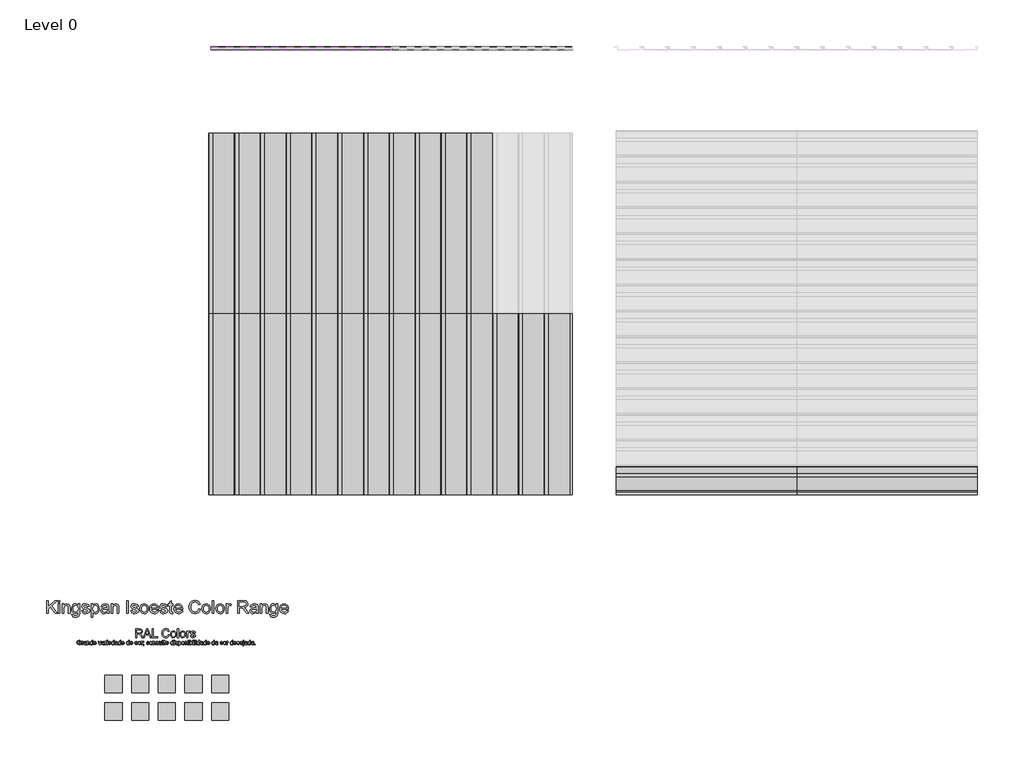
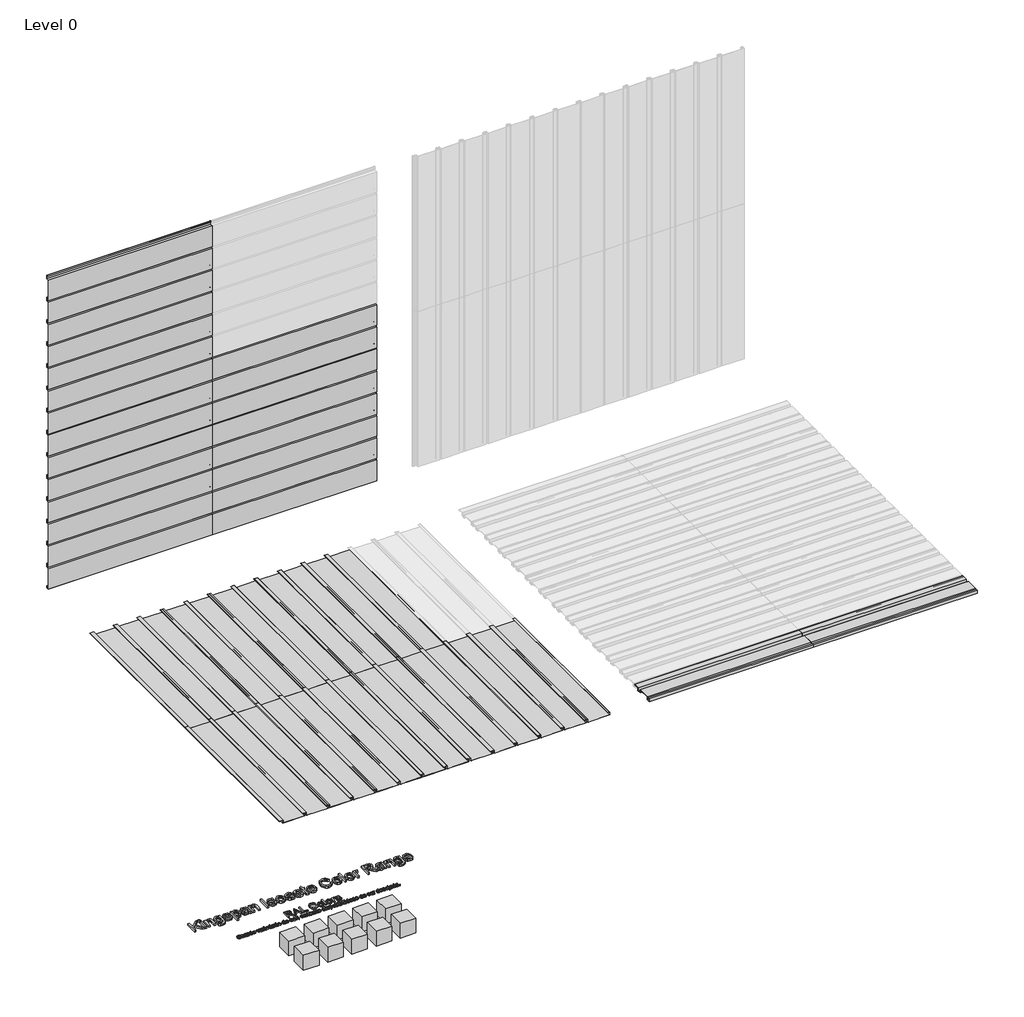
# One storey, part 1 of 2: 60 proxies.
"""IFC4 building model written with IfcOpenShell, lengths in millimetres."""

from ifc_helpers import new_model, si_unit, origin, place, context, project, spatial, transform, mapped, element, save
from components import proxy_32_ks_iso_colour_range_8220f766, proxy_32_ks_iso_colour_range_06d69407, ks_colour_sample_ks_colour_sample_0243efec, mx4_0_standard_panel_ns_1fe548eb, mx7_0_standard_panel_ns_a6cb7541, mx7_0_standard_panel_ns_ed4f422e

model = new_model("IFC4")

# Units and contexts
model_context = context("Model", 3, world=origin())
ifc_project = project(units=[si_unit("LENGTHUNIT", "METRE", prefix="MILLI")], contexts=[model_context])

# Site, building, storey
site = spatial("IfcSite", under=ifc_project)
building = spatial("IfcBuilding", under=site)
storey = spatial("IfcBuildingStorey", under=building, Name="Level 0", Elevation=0.0)

# Proxies
placement = place(None, origin())
proxy_32_ks_iso_colour_range_shape = proxy_32_ks_iso_colour_range_8220f766(model_context)
proxy_32_ks_iso_colour_range_2_shape = proxy_32_ks_iso_colour_range_06d69407(model_context)
element("IfcBuildingElementProxy", 1, Name="32-KS-ISO-Colour Range : Kingspan Isoeste Color Range", ObjectType="32-KS-ISO-Colour Range : Kingspan Isoeste Color Range", at=placement, inside=storey, context=model_context, shape_type="MappedRepresentation", body=[
    mapped(proxy_32_ks_iso_colour_range_shape, transform((-3929.8390717, -2223.0925896, 0.0), x_axis=(1.0, 0.0, 0.0), y_axis=(0.0, 1.0, 0.0), z_axis=(0.0, 0.0, 1.0))),
    mapped(proxy_32_ks_iso_colour_range_2_shape, transform((-3929.8390717, -2223.0925896, 0.0), x_axis=(1.0, 0.0, 0.0), y_axis=(0.0, 1.0, 0.0), z_axis=(0.0, 0.0, 1.0))),
])
ks_colour_sample_ks_colour_sample_shape = ks_colour_sample_ks_colour_sample_0243efec(model_context)
element("IfcBuildingElementProxy", 2, Name="KS_Colour Sample : KS_Colour Sample", ObjectType="KS_Colour Sample : KS_Colour Sample", at=placement, inside=storey, context=model_context, shape_type="MappedRepresentation", body=[
    mapped(ks_colour_sample_ks_colour_sample_shape, transform((-3309.8390717, -2663.0925896, 0.0), x_axis=(1.0, 0.0, 0.0), y_axis=(0.0, 1.0, 0.0), z_axis=(0.0, 0.0, 1.0))),
])
element("IfcBuildingElementProxy", 3, Name="KS_Colour Sample : KS_Colour Sample", ObjectType="KS_Colour Sample : KS_Colour Sample", at=placement, inside=storey, context=model_context, shape_type="MappedRepresentation", body=[
    mapped(ks_colour_sample_ks_colour_sample_shape, transform((-3309.8390717, -2343.0925896, 0.0), x_axis=(1.0, 0.0, 0.0), y_axis=(0.0, 1.0, 0.0), z_axis=(0.0, 0.0, 1.0))),
])
element("IfcBuildingElementProxy", 4, Name="KS_Colour Sample : KS_Colour Sample", ObjectType="KS_Colour Sample : KS_Colour Sample", at=placement, inside=storey, context=model_context, shape_type="MappedRepresentation", body=[
    mapped(ks_colour_sample_ks_colour_sample_shape, transform((-4549.8390717, -2663.0925896, 0.0), x_axis=(1.0, 0.0, 0.0), y_axis=(0.0, 1.0, 0.0), z_axis=(0.0, 0.0, 1.0))),
])
element("IfcBuildingElementProxy", 5, Name="KS_Colour Sample : KS_Colour Sample", ObjectType="KS_Colour Sample : KS_Colour Sample", at=placement, inside=storey, context=model_context, shape_type="MappedRepresentation", body=[
    mapped(ks_colour_sample_ks_colour_sample_shape, transform((-4239.8390717, -2663.0925896, 0.0), x_axis=(1.0, 0.0, 0.0), y_axis=(0.0, 1.0, 0.0), z_axis=(0.0, 0.0, 1.0))),
])
element("IfcBuildingElementProxy", 6, Name="KS_Colour Sample : KS_Colour Sample", ObjectType="KS_Colour Sample : KS_Colour Sample", at=placement, inside=storey, context=model_context, shape_type="MappedRepresentation", body=[
    mapped(ks_colour_sample_ks_colour_sample_shape, transform((-3619.8390717, -2663.0925896, 0.0), x_axis=(1.0, 0.0, 0.0), y_axis=(0.0, 1.0, 0.0), z_axis=(0.0, 0.0, 1.0))),
])
element("IfcBuildingElementProxy", 7, Name="KS_Colour Sample : KS_Colour Sample", ObjectType="KS_Colour Sample : KS_Colour Sample", at=placement, inside=storey, context=model_context, shape_type="MappedRepresentation", body=[
    mapped(ks_colour_sample_ks_colour_sample_shape, transform((-4549.8390717, -2343.0925896, 0.0), x_axis=(1.0, 0.0, 0.0), y_axis=(0.0, 1.0, 0.0), z_axis=(0.0, 0.0, 1.0))),
])
element("IfcBuildingElementProxy", 8, Name="KS_Colour Sample : KS_Colour Sample", ObjectType="KS_Colour Sample : KS_Colour Sample", at=placement, inside=storey, context=model_context, shape_type="MappedRepresentation", body=[
    mapped(ks_colour_sample_ks_colour_sample_shape, transform((-4239.8390717, -2343.0925896, 0.0), x_axis=(1.0, 0.0, 0.0), y_axis=(0.0, 1.0, 0.0), z_axis=(0.0, 0.0, 1.0))),
])
element("IfcBuildingElementProxy", 9, Name="KS_Colour Sample : KS_Colour Sample", ObjectType="KS_Colour Sample : KS_Colour Sample", at=placement, inside=storey, context=model_context, shape_type="MappedRepresentation", body=[
    mapped(ks_colour_sample_ks_colour_sample_shape, transform((-3619.8390717, -2343.0925896, 0.0), x_axis=(1.0, 0.0, 0.0), y_axis=(0.0, 1.0, 0.0), z_axis=(0.0, 0.0, 1.0))),
])
element("IfcBuildingElementProxy", 10, Name="KS_Colour Sample : KS_Colour Sample", ObjectType="KS_Colour Sample : KS_Colour Sample", at=placement, inside=storey, context=model_context, shape_type="MappedRepresentation", body=[
    mapped(ks_colour_sample_ks_colour_sample_shape, transform((-3929.8390717, -2343.0925896, 0.0), x_axis=(1.0, 0.0, 0.0), y_axis=(0.0, 1.0, 0.0), z_axis=(0.0, 0.0, 1.0))),
])
element("IfcBuildingElementProxy", 11, Name="KS_Colour Sample : KS_Colour Sample", ObjectType="KS_Colour Sample : KS_Colour Sample", at=placement, inside=storey, context=model_context, shape_type="MappedRepresentation", body=[
    mapped(ks_colour_sample_ks_colour_sample_shape, transform((-3929.8390717, -2663.0925896, 0.0), x_axis=(1.0, 0.0, 0.0), y_axis=(0.0, 1.0, 0.0), z_axis=(0.0, 0.0, 1.0))),
])
mx4_0_standard_panel_ns_shape = mx4_0_standard_panel_ns_1fe548eb(model_context)
element("IfcBuildingElementProxy", 12, Name="MX4.0 : Standard Panel_NS", ObjectType="MX4.0 : Standard Panel_NS", at=placement, inside=storey, context=model_context, shape_type="MappedRepresentation", body=[
    mapped(mx4_0_standard_panel_ns_shape, transform((1289.7088668, -141.6886547, 0.0), x_axis=(1.0, 0.0, 0.0), y_axis=(0.0, 1.0, 0.0), z_axis=(0.0, 0.0, 1.0))),
])
element("IfcBuildingElementProxy", 13, Name="MX4.0 : Standard Panel_NS", ObjectType="MX4.0 : Standard Panel_NS", at=placement, inside=storey, context=model_context, shape_type="MappedRepresentation", body=[
    mapped(mx4_0_standard_panel_ns_shape, transform((3389.7088668, -141.6886547, 0.0), x_axis=(1.0, 0.0, 0.0), y_axis=(0.0, 1.0, 0.0), z_axis=(0.0, 0.0, 1.0))),
])
mx7_0_standard_panel_ns_shape = mx7_0_standard_panel_ns_a6cb7541(model_context)
element("IfcBuildingElementProxy", 14, Name="MX7.0 : Standard Panel_NS", ObjectType="MX7.0 : Standard Panel_NS", at=placement, inside=storey, context=model_context, shape_type="MappedRepresentation", body=[
    mapped(mx7_0_standard_panel_ns_shape, transform((-3417.7637295, 5063.0274074, 1200.0), x_axis=(1.0, 0.0, 0.0), y_axis=(0.0, 0.0, 1.0), z_axis=(0.0, -1.0, 0.0))),
])
element("IfcBuildingElementProxy", 15, Name="MX7.0 : Standard Panel_NS", ObjectType="MX7.0 : Standard Panel_NS", at=placement, inside=storey, context=model_context, shape_type="MappedRepresentation", body=[
    mapped(mx7_0_standard_panel_ns_shape, transform((-3417.7637295, 5063.0274074, 3600.0), x_axis=(1.0, 0.0, 0.0), y_axis=(0.0, 0.0, 1.0), z_axis=(0.0, -1.0, 0.0))),
])
element("IfcBuildingElementProxy", 16, Name="MX7.0 : Standard Panel_NS", ObjectType="MX7.0 : Standard Panel_NS", at=placement, inside=storey, context=model_context, shape_type="MappedRepresentation", body=[
    mapped(mx7_0_standard_panel_ns_shape, transform((-1317.7637295, 5063.0274074, 1200.0), x_axis=(1.0, 0.0, 0.0), y_axis=(0.0, 0.0, 1.0), z_axis=(0.0, -1.0, 0.0))),
])
element("IfcBuildingElementProxy", 17, Name="MX7.0 : Standard Panel_NS", ObjectType="MX7.0 : Standard Panel_NS", at=placement, inside=storey, context=model_context, shape_type="MappedRepresentation", body=[
    mapped(mx7_0_standard_panel_ns_shape, transform((-3417.7637295, 5063.0274074, 0.0), x_axis=(1.0, 0.0, 0.0), y_axis=(0.0, 0.0, 1.0), z_axis=(0.0, -1.0, 0.0))),
])
element("IfcBuildingElementProxy", 18, Name="MX7.0 : Standard Panel_NS", ObjectType="MX7.0 : Standard Panel_NS", at=placement, inside=storey, context=model_context, shape_type="MappedRepresentation", body=[
    mapped(mx7_0_standard_panel_ns_shape, transform((-3417.7637295, 5063.0274074, 2400.0), x_axis=(1.0, 0.0, 0.0), y_axis=(0.0, 0.0, 1.0), z_axis=(0.0, -1.0, 0.0))),
])
element("IfcBuildingElementProxy", 19, Name="MX7.0 : Standard Panel_NS", ObjectType="MX7.0 : Standard Panel_NS", at=placement, inside=storey, context=model_context, shape_type="MappedRepresentation", body=[
    mapped(mx7_0_standard_panel_ns_shape, transform((-1317.7637295, 5063.0274074, 0.0), x_axis=(1.0, 0.0, 0.0), y_axis=(0.0, 0.0, 1.0), z_axis=(0.0, -1.0, 0.0))),
])
element("IfcBuildingElementProxy", 20, Name="MX7.0 : Standard Panel_NS", ObjectType="MX7.0 : Standard Panel_NS", at=placement, inside=storey, context=model_context, shape_type="MappedRepresentation", body=[
    mapped(mx7_0_standard_panel_ns_shape, transform((-3417.7637295, 5063.0274074, 300.0), x_axis=(1.0, 0.0, 0.0), y_axis=(0.0, 0.0, 1.0), z_axis=(0.0, -1.0, 0.0))),
])
element("IfcBuildingElementProxy", 21, Name="MX7.0 : Standard Panel_NS", ObjectType="MX7.0 : Standard Panel_NS", at=placement, inside=storey, context=model_context, shape_type="MappedRepresentation", body=[
    mapped(mx7_0_standard_panel_ns_shape, transform((-3417.7637295, 5063.0274074, 2700.0), x_axis=(1.0, 0.0, 0.0), y_axis=(0.0, 0.0, 1.0), z_axis=(0.0, -1.0, 0.0))),
])
element("IfcBuildingElementProxy", 22, Name="MX7.0 : Standard Panel_NS", ObjectType="MX7.0 : Standard Panel_NS", at=placement, inside=storey, context=model_context, shape_type="MappedRepresentation", body=[
    mapped(mx7_0_standard_panel_ns_shape, transform((-1317.7637295, 5063.0274074, 300.0), x_axis=(1.0, 0.0, 0.0), y_axis=(0.0, 0.0, 1.0), z_axis=(0.0, -1.0, 0.0))),
])
element("IfcBuildingElementProxy", 23, Name="MX7.0 : Standard Panel_NS", ObjectType="MX7.0 : Standard Panel_NS", at=placement, inside=storey, context=model_context, shape_type="MappedRepresentation", body=[
    mapped(mx7_0_standard_panel_ns_shape, transform((-3417.7637295, 5063.0274074, 600.0), x_axis=(1.0, 0.0, 0.0), y_axis=(0.0, 0.0, 1.0), z_axis=(0.0, -1.0, 0.0))),
])
element("IfcBuildingElementProxy", 24, Name="MX7.0 : Standard Panel_NS", ObjectType="MX7.0 : Standard Panel_NS", at=placement, inside=storey, context=model_context, shape_type="MappedRepresentation", body=[
    mapped(mx7_0_standard_panel_ns_shape, transform((-3417.7637295, 5063.0274074, 3000.0), x_axis=(1.0, 0.0, 0.0), y_axis=(0.0, 0.0, 1.0), z_axis=(0.0, -1.0, 0.0))),
])
element("IfcBuildingElementProxy", 25, Name="MX7.0 : Standard Panel_NS", ObjectType="MX7.0 : Standard Panel_NS", at=placement, inside=storey, context=model_context, shape_type="MappedRepresentation", body=[
    mapped(mx7_0_standard_panel_ns_shape, transform((-1317.7637295, 5063.0274074, 600.0), x_axis=(1.0, 0.0, 0.0), y_axis=(0.0, 0.0, 1.0), z_axis=(0.0, -1.0, 0.0))),
])
element("IfcBuildingElementProxy", 26, Name="MX7.0 : Standard Panel_NS", ObjectType="MX7.0 : Standard Panel_NS", at=placement, inside=storey, context=model_context, shape_type="MappedRepresentation", body=[
    mapped(mx7_0_standard_panel_ns_shape, transform((-3417.7637295, 5063.0274074, 900.0), x_axis=(1.0, 0.0, 0.0), y_axis=(0.0, 0.0, 1.0), z_axis=(0.0, -1.0, 0.0))),
])
element("IfcBuildingElementProxy", 27, Name="MX7.0 : Standard Panel_NS", ObjectType="MX7.0 : Standard Panel_NS", at=placement, inside=storey, context=model_context, shape_type="MappedRepresentation", body=[
    mapped(mx7_0_standard_panel_ns_shape, transform((-3417.7637295, 5063.0274074, 3300.0), x_axis=(1.0, 0.0, 0.0), y_axis=(0.0, 0.0, 1.0), z_axis=(0.0, -1.0, 0.0))),
])
element("IfcBuildingElementProxy", 28, Name="MX7.0 : Standard Panel_NS", ObjectType="MX7.0 : Standard Panel_NS", at=placement, inside=storey, context=model_context, shape_type="MappedRepresentation", body=[
    mapped(mx7_0_standard_panel_ns_shape, transform((-1317.7637295, 5063.0274074, 900.0), x_axis=(1.0, 0.0, 0.0), y_axis=(0.0, 0.0, 1.0), z_axis=(0.0, -1.0, 0.0))),
])
element("IfcBuildingElementProxy", 29, Name="MX7.0 : Standard Panel_NS", ObjectType="MX7.0 : Standard Panel_NS", at=placement, inside=storey, context=model_context, shape_type="MappedRepresentation", body=[
    mapped(mx7_0_standard_panel_ns_shape, transform((-3417.7637295, 5063.0274074, 1500.0), x_axis=(1.0, 0.0, 0.0), y_axis=(0.0, 0.0, 1.0), z_axis=(0.0, -1.0, 0.0))),
])
element("IfcBuildingElementProxy", 30, Name="MX7.0 : Standard Panel_NS", ObjectType="MX7.0 : Standard Panel_NS", at=placement, inside=storey, context=model_context, shape_type="MappedRepresentation", body=[
    mapped(mx7_0_standard_panel_ns_shape, transform((-3417.7637295, 5063.0274074, 3900.0), x_axis=(1.0, 0.0, 0.0), y_axis=(0.0, 0.0, 1.0), z_axis=(0.0, -1.0, 0.0))),
])
element("IfcBuildingElementProxy", 31, Name="MX7.0 : Standard Panel_NS", ObjectType="MX7.0 : Standard Panel_NS", at=placement, inside=storey, context=model_context, shape_type="MappedRepresentation", body=[
    mapped(mx7_0_standard_panel_ns_shape, transform((-1317.7637295, 5063.0274074, 1500.0), x_axis=(1.0, 0.0, 0.0), y_axis=(0.0, 0.0, 1.0), z_axis=(0.0, -1.0, 0.0))),
])
element("IfcBuildingElementProxy", 32, Name="MX7.0 : Standard Panel_NS", ObjectType="MX7.0 : Standard Panel_NS", at=placement, inside=storey, context=model_context, shape_type="MappedRepresentation", body=[
    mapped(mx7_0_standard_panel_ns_shape, transform((-3417.7637295, 5063.0274074, 1800.0), x_axis=(1.0, 0.0, 0.0), y_axis=(0.0, 0.0, 1.0), z_axis=(0.0, -1.0, 0.0))),
])
element("IfcBuildingElementProxy", 33, Name="MX7.0 : Standard Panel_NS", ObjectType="MX7.0 : Standard Panel_NS", at=placement, inside=storey, context=model_context, shape_type="MappedRepresentation", body=[
    mapped(mx7_0_standard_panel_ns_shape, transform((-1317.7637295, 5063.0274074, 1800.0), x_axis=(1.0, 0.0, 0.0), y_axis=(0.0, 0.0, 1.0), z_axis=(0.0, -1.0, 0.0))),
])
element("IfcBuildingElementProxy", 34, Name="MX7.0 : Standard Panel_NS", ObjectType="MX7.0 : Standard Panel_NS", at=placement, inside=storey, context=model_context, shape_type="MappedRepresentation", body=[
    mapped(mx7_0_standard_panel_ns_shape, transform((-3417.7637295, 5063.0274074, 2100.0), x_axis=(1.0, 0.0, 0.0), y_axis=(0.0, 0.0, 1.0), z_axis=(0.0, -1.0, 0.0))),
])
element("IfcBuildingElementProxy", 35, Name="MX7.0 : Standard Panel_NS", ObjectType="MX7.0 : Standard Panel_NS", at=placement, inside=storey, context=model_context, shape_type="MappedRepresentation", body=[
    mapped(mx7_0_standard_panel_ns_shape, transform((-1317.7637295, 5063.0274074, 2100.0), x_axis=(1.0, 0.0, 0.0), y_axis=(0.0, 0.0, 1.0), z_axis=(0.0, -1.0, 0.0))),
])
mx7_0_standard_panel_ns_2_shape = mx7_0_standard_panel_ns_ed4f422e(model_context)
element("IfcBuildingElementProxy", 36, Name="MX7.0 : Standard Panel_NS", ObjectType="MX7.0 : Standard Panel_NS", at=placement, inside=storey, context=model_context, shape_type="MappedRepresentation", body=[
    mapped(mx7_0_standard_panel_ns_2_shape, transform((-3117.7637295, -141.6886547, 0.0), x_axis=(0.0, 1.0, 0.0), y_axis=(-1.0, 0.0, 0.0), z_axis=(0.0, 0.0, 1.0))),
])
element("IfcBuildingElementProxy", 37, Name="MX7.0 : Standard Panel_NS", ObjectType="MX7.0 : Standard Panel_NS", at=placement, inside=storey, context=model_context, shape_type="MappedRepresentation", body=[
    mapped(mx7_0_standard_panel_ns_2_shape, transform((-717.7637297, -141.6886547, 0.0), x_axis=(0.0, 1.0, 0.0), y_axis=(-1.0, 0.0, 0.0), z_axis=(0.0, 0.0, 1.0))),
])
element("IfcBuildingElementProxy", 38, Name="MX7.0 : Standard Panel_NS", ObjectType="MX7.0 : Standard Panel_NS", at=placement, inside=storey, context=model_context, shape_type="MappedRepresentation", body=[
    mapped(mx7_0_standard_panel_ns_2_shape, transform((-3117.7637295, 1958.3113453, 0.0), x_axis=(0.0, 1.0, 0.0), y_axis=(-1.0, 0.0, 0.0), z_axis=(0.0, 0.0, 1.0))),
])
element("IfcBuildingElementProxy", 39, Name="MX7.0 : Standard Panel_NS", ObjectType="MX7.0 : Standard Panel_NS", at=placement, inside=storey, context=model_context, shape_type="MappedRepresentation", body=[
    mapped(mx7_0_standard_panel_ns_2_shape, transform((-717.7637297, 1958.3113453, 0.0), x_axis=(0.0, 1.0, 0.0), y_axis=(-1.0, 0.0, 0.0), z_axis=(0.0, 0.0, 1.0))),
])
element("IfcBuildingElementProxy", 40, Name="MX7.0 : Standard Panel_NS", ObjectType="MX7.0 : Standard Panel_NS", at=placement, inside=storey, context=model_context, shape_type="MappedRepresentation", body=[
    mapped(mx7_0_standard_panel_ns_2_shape, transform((-1617.7637297, -141.6886547, 0.0), x_axis=(0.0, 1.0, 0.0), y_axis=(-1.0, 0.0, 0.0), z_axis=(0.0, 0.0, 1.0))),
])
element("IfcBuildingElementProxy", 41, Name="MX7.0 : Standard Panel_NS", ObjectType="MX7.0 : Standard Panel_NS", at=placement, inside=storey, context=model_context, shape_type="MappedRepresentation", body=[
    mapped(mx7_0_standard_panel_ns_2_shape, transform((-1617.7637297, 1958.3113453, 0.0), x_axis=(0.0, 1.0, 0.0), y_axis=(-1.0, 0.0, 0.0), z_axis=(0.0, 0.0, 1.0))),
])
element("IfcBuildingElementProxy", 42, Name="MX7.0 : Standard Panel_NS", ObjectType="MX7.0 : Standard Panel_NS", at=placement, inside=storey, context=model_context, shape_type="MappedRepresentation", body=[
    mapped(mx7_0_standard_panel_ns_2_shape, transform((782.2362705, -141.6886547, 0.0), x_axis=(0.0, 1.0, 0.0), y_axis=(-1.0, 0.0, 0.0), z_axis=(0.0, 0.0, 1.0))),
])
element("IfcBuildingElementProxy", 43, Name="MX7.0 : Standard Panel_NS", ObjectType="MX7.0 : Standard Panel_NS", at=placement, inside=storey, context=model_context, shape_type="MappedRepresentation", body=[
    mapped(mx7_0_standard_panel_ns_2_shape, transform((482.2362703, -141.6886547, 0.0), x_axis=(0.0, 1.0, 0.0), y_axis=(-1.0, 0.0, 0.0), z_axis=(0.0, 0.0, 1.0))),
])
element("IfcBuildingElementProxy", 44, Name="MX7.0 : Standard Panel_NS", ObjectType="MX7.0 : Standard Panel_NS", at=placement, inside=storey, context=model_context, shape_type="MappedRepresentation", body=[
    mapped(mx7_0_standard_panel_ns_2_shape, transform((-1917.7637297, -141.6886547, 0.0), x_axis=(0.0, 1.0, 0.0), y_axis=(-1.0, 0.0, 0.0), z_axis=(0.0, 0.0, 1.0))),
])
element("IfcBuildingElementProxy", 45, Name="MX7.0 : Standard Panel_NS", ObjectType="MX7.0 : Standard Panel_NS", at=placement, inside=storey, context=model_context, shape_type="MappedRepresentation", body=[
    mapped(mx7_0_standard_panel_ns_2_shape, transform((-1917.7637297, 1958.3113453, 0.0), x_axis=(0.0, 1.0, 0.0), y_axis=(-1.0, 0.0, 0.0), z_axis=(0.0, 0.0, 1.0))),
])
element("IfcBuildingElementProxy", 46, Name="MX7.0 : Standard Panel_NS", ObjectType="MX7.0 : Standard Panel_NS", at=placement, inside=storey, context=model_context, shape_type="MappedRepresentation", body=[
    mapped(mx7_0_standard_panel_ns_2_shape, transform((182.2362703, -141.6886547, 0.0), x_axis=(0.0, 1.0, 0.0), y_axis=(-1.0, 0.0, 0.0), z_axis=(0.0, 0.0, 1.0))),
])
element("IfcBuildingElementProxy", 47, Name="MX7.0 : Standard Panel_NS", ObjectType="MX7.0 : Standard Panel_NS", at=placement, inside=storey, context=model_context, shape_type="MappedRepresentation", body=[
    mapped(mx7_0_standard_panel_ns_2_shape, transform((-2217.7637297, -141.6886547, 0.0), x_axis=(0.0, 1.0, 0.0), y_axis=(-1.0, 0.0, 0.0), z_axis=(0.0, 0.0, 1.0))),
])
element("IfcBuildingElementProxy", 48, Name="MX7.0 : Standard Panel_NS", ObjectType="MX7.0 : Standard Panel_NS", at=placement, inside=storey, context=model_context, shape_type="MappedRepresentation", body=[
    mapped(mx7_0_standard_panel_ns_2_shape, transform((-2217.7637297, 1958.3113453, 0.0), x_axis=(0.0, 1.0, 0.0), y_axis=(-1.0, 0.0, 0.0), z_axis=(0.0, 0.0, 1.0))),
])
element("IfcBuildingElementProxy", 49, Name="MX7.0 : Standard Panel_NS", ObjectType="MX7.0 : Standard Panel_NS", at=placement, inside=storey, context=model_context, shape_type="MappedRepresentation", body=[
    mapped(mx7_0_standard_panel_ns_2_shape, transform((-117.7637297, -141.6886547, 0.0), x_axis=(0.0, 1.0, 0.0), y_axis=(-1.0, 0.0, 0.0), z_axis=(0.0, 0.0, 1.0))),
])
element("IfcBuildingElementProxy", 50, Name="MX7.0 : Standard Panel_NS", ObjectType="MX7.0 : Standard Panel_NS", at=placement, inside=storey, context=model_context, shape_type="MappedRepresentation", body=[
    mapped(mx7_0_standard_panel_ns_2_shape, transform((-2517.7637297, -141.6886547, 0.0), x_axis=(0.0, 1.0, 0.0), y_axis=(-1.0, 0.0, 0.0), z_axis=(0.0, 0.0, 1.0))),
])
element("IfcBuildingElementProxy", 51, Name="MX7.0 : Standard Panel_NS", ObjectType="MX7.0 : Standard Panel_NS", at=placement, inside=storey, context=model_context, shape_type="MappedRepresentation", body=[
    mapped(mx7_0_standard_panel_ns_2_shape, transform((-2517.7637297, 1958.3113453, 0.0), x_axis=(0.0, 1.0, 0.0), y_axis=(-1.0, 0.0, 0.0), z_axis=(0.0, 0.0, 1.0))),
])
element("IfcBuildingElementProxy", 52, Name="MX7.0 : Standard Panel_NS", ObjectType="MX7.0 : Standard Panel_NS", at=placement, inside=storey, context=model_context, shape_type="MappedRepresentation", body=[
    mapped(mx7_0_standard_panel_ns_2_shape, transform((-117.7637297, 1958.3113453, 0.0), x_axis=(0.0, 1.0, 0.0), y_axis=(-1.0, 0.0, 0.0), z_axis=(0.0, 0.0, 1.0))),
])
element("IfcBuildingElementProxy", 53, Name="MX7.0 : Standard Panel_NS", ObjectType="MX7.0 : Standard Panel_NS", at=placement, inside=storey, context=model_context, shape_type="MappedRepresentation", body=[
    mapped(mx7_0_standard_panel_ns_2_shape, transform((-417.7637297, -141.6886547, 0.0), x_axis=(0.0, 1.0, 0.0), y_axis=(-1.0, 0.0, 0.0), z_axis=(0.0, 0.0, 1.0))),
])
element("IfcBuildingElementProxy", 54, Name="MX7.0 : Standard Panel_NS", ObjectType="MX7.0 : Standard Panel_NS", at=placement, inside=storey, context=model_context, shape_type="MappedRepresentation", body=[
    mapped(mx7_0_standard_panel_ns_2_shape, transform((-2817.7637297, -141.6886547, 0.0), x_axis=(0.0, 1.0, 0.0), y_axis=(-1.0, 0.0, 0.0), z_axis=(0.0, 0.0, 1.0))),
])
element("IfcBuildingElementProxy", 55, Name="MX7.0 : Standard Panel_NS", ObjectType="MX7.0 : Standard Panel_NS", at=placement, inside=storey, context=model_context, shape_type="MappedRepresentation", body=[
    mapped(mx7_0_standard_panel_ns_2_shape, transform((-2817.7637297, 1958.3113453, 0.0), x_axis=(0.0, 1.0, 0.0), y_axis=(-1.0, 0.0, 0.0), z_axis=(0.0, 0.0, 1.0))),
])
element("IfcBuildingElementProxy", 56, Name="MX7.0 : Standard Panel_NS", ObjectType="MX7.0 : Standard Panel_NS", at=placement, inside=storey, context=model_context, shape_type="MappedRepresentation", body=[
    mapped(mx7_0_standard_panel_ns_2_shape, transform((-417.7637297, 1958.3113453, 0.0), x_axis=(0.0, 1.0, 0.0), y_axis=(-1.0, 0.0, 0.0), z_axis=(0.0, 0.0, 1.0))),
])
element("IfcBuildingElementProxy", 57, Name="MX7.0 : Standard Panel_NS", ObjectType="MX7.0 : Standard Panel_NS", at=placement, inside=storey, context=model_context, shape_type="MappedRepresentation", body=[
    mapped(mx7_0_standard_panel_ns_2_shape, transform((-1017.7637297, -141.6886547, 0.0), x_axis=(0.0, 1.0, 0.0), y_axis=(-1.0, 0.0, 0.0), z_axis=(0.0, 0.0, 1.0))),
])
element("IfcBuildingElementProxy", 58, Name="MX7.0 : Standard Panel_NS", ObjectType="MX7.0 : Standard Panel_NS", at=placement, inside=storey, context=model_context, shape_type="MappedRepresentation", body=[
    mapped(mx7_0_standard_panel_ns_2_shape, transform((-1017.7637297, 1958.3113453, 0.0), x_axis=(0.0, 1.0, 0.0), y_axis=(-1.0, 0.0, 0.0), z_axis=(0.0, 0.0, 1.0))),
])
element("IfcBuildingElementProxy", 59, Name="MX7.0 : Standard Panel_NS", ObjectType="MX7.0 : Standard Panel_NS", at=placement, inside=storey, context=model_context, shape_type="MappedRepresentation", body=[
    mapped(mx7_0_standard_panel_ns_2_shape, transform((-1317.7637297, -141.6886547, 0.0), x_axis=(0.0, 1.0, 0.0), y_axis=(-1.0, 0.0, 0.0), z_axis=(0.0, 0.0, 1.0))),
])
element("IfcBuildingElementProxy", 60, Name="MX7.0 : Standard Panel_NS", ObjectType="MX7.0 : Standard Panel_NS", at=placement, inside=storey, context=model_context, shape_type="MappedRepresentation", body=[
    mapped(mx7_0_standard_panel_ns_2_shape, transform((-1317.7637297, 1958.3113453, 0.0), x_axis=(0.0, 1.0, 0.0), y_axis=(-1.0, 0.0, 0.0), z_axis=(0.0, 0.0, 1.0))),
])

save(model, "model.ifc")
